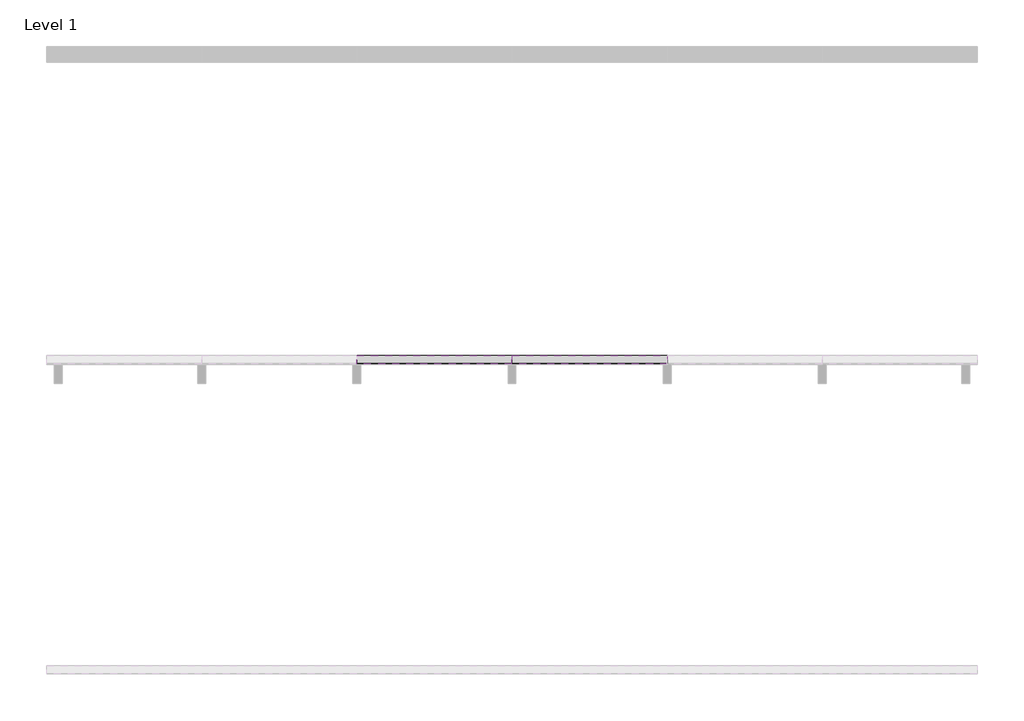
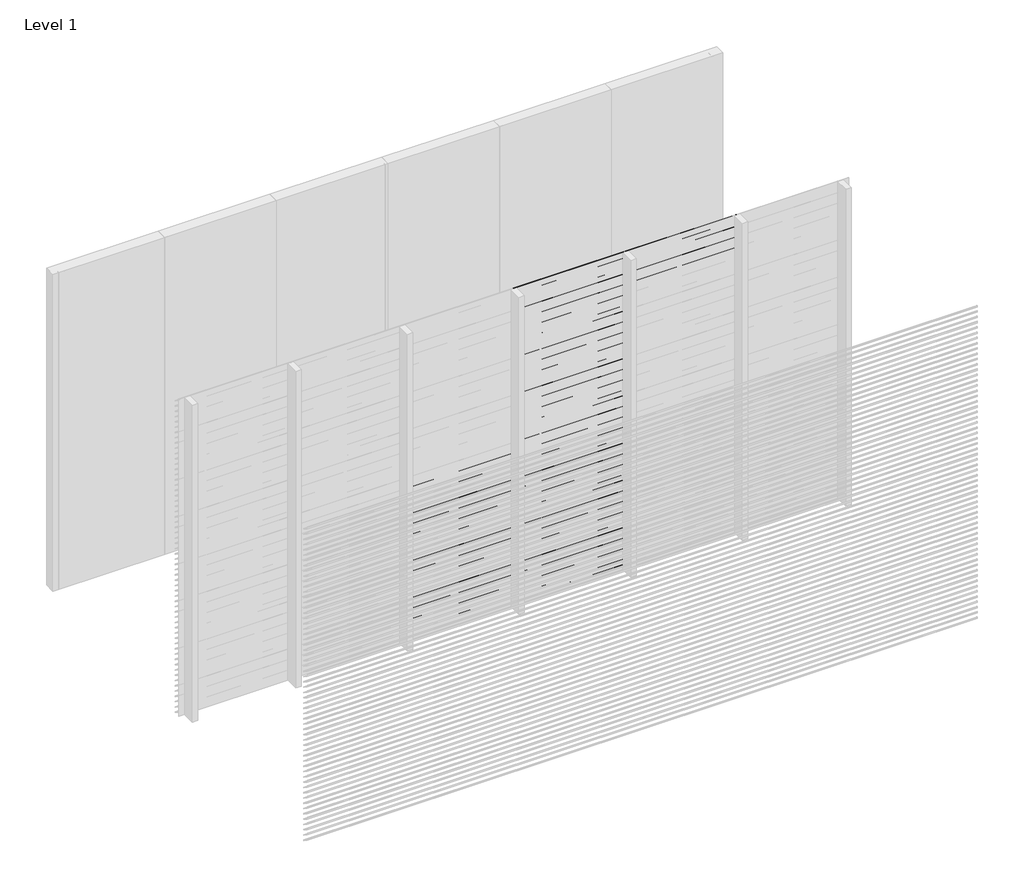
# One storey, part 4 of 18: 96 proxies.
"""IFC4 building model written with IfcOpenShell, lengths in millimetres."""

from ifc_helpers import new_model, si_unit, frame, origin, place, context, project, spatial, polyline, outline, extrude, element, save

model = new_model("IFC4")

# Units and contexts
model_context = context("Model", 3, world=origin())
ifc_project = project(units=[si_unit("LENGTHUNIT", "METRE", prefix="MILLI")], contexts=[model_context])

# Site, building, storey
site = spatial("IfcSite", under=ifc_project)
building = spatial("IfcBuilding", under=site)
storey = spatial("IfcBuildingStorey", under=building, Name="Level 1", Elevation=0.0)

# Proxies
placement = place(None, origin())
element("IfcBuildingElementProxy", 1, Name="Wall Sweeps", at=placement, inside=storey, context=model_context, shape_type="SweptSolid", body=[
    extrude(outline(polyline([(-17995.0, 3000.0), (-17995.0, 2991.0744429), (-17943.0, 2956.0), (-17943.0, 2950.0), (-17997.0, 2986.4234599), (-17997.0, 3000.0), (-17995.0, 3000.0)])), frame((3999.9999999, 0.0, 0.0), z_axis=(1.0, 0.0, 0.0), x_axis=(0.0, 1.0, 0.0)), (0.0, 0.0, 1.0), 999.9999999),
])
element("IfcBuildingElementProxy", 2, Name="Wall Sweeps", at=placement, inside=storey, context=model_context, shape_type="SweptSolid", body=[
    extrude(outline(polyline([(-17995.0, 2950.0), (-17995.0, 2941.0744429), (-17943.0, 2906.0), (-17943.0, 2900.0), (-17997.0, 2936.4234599), (-17997.0, 2950.0), (-17995.0, 2950.0)])), frame((3999.9999999, 0.0, 0.0), z_axis=(1.0, 0.0, 0.0), x_axis=(0.0, 1.0, 0.0)), (0.0, 0.0, 1.0), 999.9999999),
])
element("IfcBuildingElementProxy", 3, Name="Wall Sweeps", at=placement, inside=storey, context=model_context, shape_type="SweptSolid", body=[
    extrude(outline(polyline([(-17995.0, 2900.0), (-17995.0, 2891.0744429), (-17943.0, 2856.0), (-17943.0, 2850.0), (-17997.0, 2886.4234599), (-17997.0, 2900.0), (-17995.0, 2900.0)])), frame((3999.9999999, 0.0, 0.0), z_axis=(1.0, 0.0, 0.0), x_axis=(0.0, 1.0, 0.0)), (0.0, 0.0, 1.0), 999.9999999),
])
element("IfcBuildingElementProxy", 4, Name="Wall Sweeps", at=placement, inside=storey, context=model_context, shape_type="SweptSolid", body=[
    extrude(outline(polyline([(-17995.0, 2850.0), (-17995.0, 2841.0744429), (-17943.0, 2806.0), (-17943.0, 2800.0), (-17997.0, 2836.4234599), (-17997.0, 2850.0), (-17995.0, 2850.0)])), frame((3999.9999999, 0.0, 0.0), z_axis=(1.0, 0.0, 0.0), x_axis=(0.0, 1.0, 0.0)), (0.0, 0.0, 1.0), 999.9999999),
])
element("IfcBuildingElementProxy", 5, Name="Wall Sweeps", at=placement, inside=storey, context=model_context, shape_type="SweptSolid", body=[
    extrude(outline(polyline([(-17995.0, 2800.0), (-17995.0, 2791.0744429), (-17943.0, 2756.0), (-17943.0, 2750.0), (-17997.0, 2786.4234599), (-17997.0, 2800.0), (-17995.0, 2800.0)])), frame((3999.9999999, 0.0, 0.0), z_axis=(1.0, 0.0, 0.0), x_axis=(0.0, 1.0, 0.0)), (0.0, 0.0, 1.0), 999.9999999),
])
element("IfcBuildingElementProxy", 6, Name="Wall Sweeps", at=placement, inside=storey, context=model_context, shape_type="SweptSolid", body=[
    extrude(outline(polyline([(-17995.0, 2750.0), (-17995.0, 2741.0744429), (-17943.0, 2706.0), (-17943.0, 2700.0), (-17997.0, 2736.4234599), (-17997.0, 2750.0), (-17995.0, 2750.0)])), frame((3999.9999999, 0.0, 0.0), z_axis=(1.0, 0.0, 0.0), x_axis=(0.0, 1.0, 0.0)), (0.0, 0.0, 1.0), 999.9999999),
])
element("IfcBuildingElementProxy", 7, Name="Wall Sweeps", at=placement, inside=storey, context=model_context, shape_type="SweptSolid", body=[
    extrude(outline(polyline([(-17995.0, 2700.0), (-17995.0, 2691.0744429), (-17943.0, 2656.0), (-17943.0, 2650.0), (-17997.0, 2686.4234599), (-17997.0, 2700.0), (-17995.0, 2700.0)])), frame((3999.9999999, 0.0, 0.0), z_axis=(1.0, 0.0, 0.0), x_axis=(0.0, 1.0, 0.0)), (0.0, 0.0, 1.0), 999.9999999),
])
element("IfcBuildingElementProxy", 8, Name="Wall Sweeps", at=placement, inside=storey, context=model_context, shape_type="SweptSolid", body=[
    extrude(outline(polyline([(-17995.0, 3000.0), (-17995.0, 2991.0744429), (-17943.0, 2956.0), (-17943.0, 2950.0), (-17997.0, 2986.4234599), (-17997.0, 3000.0), (-17995.0, 3000.0)])), frame((3000.0, 0.0, 0.0), z_axis=(1.0, 0.0, 0.0), x_axis=(0.0, 1.0, 0.0)), (0.0, 0.0, 1.0), 999.9999999),
])
element("IfcBuildingElementProxy", 9, Name="Wall Sweeps", at=placement, inside=storey, context=model_context, shape_type="SweptSolid", body=[
    extrude(outline(polyline([(-17995.0, 2950.0), (-17995.0, 2941.0744429), (-17943.0, 2906.0), (-17943.0, 2900.0), (-17997.0, 2936.4234599), (-17997.0, 2950.0), (-17995.0, 2950.0)])), frame((3000.0, 0.0, 0.0), z_axis=(1.0, 0.0, 0.0), x_axis=(0.0, 1.0, 0.0)), (0.0, 0.0, 1.0), 999.9999999),
])
element("IfcBuildingElementProxy", 10, Name="Wall Sweeps", at=placement, inside=storey, context=model_context, shape_type="SweptSolid", body=[
    extrude(outline(polyline([(-17995.0, 2900.0), (-17995.0, 2891.0744429), (-17943.0, 2856.0), (-17943.0, 2850.0), (-17997.0, 2886.4234599), (-17997.0, 2900.0), (-17995.0, 2900.0)])), frame((3000.0, 0.0, 0.0), z_axis=(1.0, 0.0, 0.0), x_axis=(0.0, 1.0, 0.0)), (0.0, 0.0, 1.0), 999.9999999),
])
element("IfcBuildingElementProxy", 11, Name="Wall Sweeps", at=placement, inside=storey, context=model_context, shape_type="SweptSolid", body=[
    extrude(outline(polyline([(-17995.0, 2850.0), (-17995.0, 2841.0744429), (-17943.0, 2806.0), (-17943.0, 2800.0), (-17997.0, 2836.4234599), (-17997.0, 2850.0), (-17995.0, 2850.0)])), frame((3000.0, 0.0, 0.0), z_axis=(1.0, 0.0, 0.0), x_axis=(0.0, 1.0, 0.0)), (0.0, 0.0, 1.0), 999.9999999),
])
element("IfcBuildingElementProxy", 12, Name="Wall Sweeps", at=placement, inside=storey, context=model_context, shape_type="SweptSolid", body=[
    extrude(outline(polyline([(-17995.0, 2800.0), (-17995.0, 2791.0744429), (-17943.0, 2756.0), (-17943.0, 2750.0), (-17997.0, 2786.4234599), (-17997.0, 2800.0), (-17995.0, 2800.0)])), frame((3000.0, 0.0, 0.0), z_axis=(1.0, 0.0, 0.0), x_axis=(0.0, 1.0, 0.0)), (0.0, 0.0, 1.0), 999.9999999),
])
element("IfcBuildingElementProxy", 13, Name="Wall Sweeps", at=placement, inside=storey, context=model_context, shape_type="SweptSolid", body=[
    extrude(outline(polyline([(-17995.0, 2750.0), (-17995.0, 2741.0744429), (-17943.0, 2706.0), (-17943.0, 2700.0), (-17997.0, 2736.4234599), (-17997.0, 2750.0), (-17995.0, 2750.0)])), frame((3000.0, 0.0, 0.0), z_axis=(1.0, 0.0, 0.0), x_axis=(0.0, 1.0, 0.0)), (0.0, 0.0, 1.0), 999.9999999),
])
element("IfcBuildingElementProxy", 14, Name="Wall Sweeps", at=placement, inside=storey, context=model_context, shape_type="SweptSolid", body=[
    extrude(outline(polyline([(-17995.0, 2700.0), (-17995.0, 2691.0744429), (-17943.0, 2656.0), (-17943.0, 2650.0), (-17997.0, 2686.4234599), (-17997.0, 2700.0), (-17995.0, 2700.0)])), frame((3000.0, 0.0, 0.0), z_axis=(1.0, 0.0, 0.0), x_axis=(0.0, 1.0, 0.0)), (0.0, 0.0, 1.0), 999.9999999),
])
element("IfcBuildingElementProxy", 15, Name="Wall Sweeps", at=placement, inside=storey, context=model_context, shape_type="SweptSolid", body=[
    extrude(outline(polyline([(-17995.0, 2650.0), (-17995.0, 2641.0744429), (-17943.0, 2606.0), (-17943.0, 2600.0), (-17997.0, 2636.4234599), (-17997.0, 2650.0), (-17995.0, 2650.0)])), frame((3000.0, 0.0, 0.0), z_axis=(1.0, 0.0, 0.0), x_axis=(0.0, 1.0, 0.0)), (0.0, 0.0, 1.0), 999.9999999),
])
element("IfcBuildingElementProxy", 16, Name="Wall Sweeps", at=placement, inside=storey, context=model_context, shape_type="SweptSolid", body=[
    extrude(outline(polyline([(-17995.0, 2600.0), (-17995.0, 2591.0744429), (-17943.0, 2556.0), (-17943.0, 2550.0), (-17997.0, 2586.4234599), (-17997.0, 2600.0), (-17995.0, 2600.0)])), frame((3000.0, 0.0, 0.0), z_axis=(1.0, 0.0, 0.0), x_axis=(0.0, 1.0, 0.0)), (0.0, 0.0, 1.0), 999.9999999),
])
element("IfcBuildingElementProxy", 17, Name="Wall Sweeps", at=placement, inside=storey, context=model_context, shape_type="SweptSolid", body=[
    extrude(outline(polyline([(-17995.0, 2550.0), (-17995.0, 2541.0744429), (-17943.0, 2506.0), (-17943.0, 2500.0), (-17997.0, 2536.4234599), (-17997.0, 2550.0), (-17995.0, 2550.0)])), frame((3000.0, 0.0, 0.0), z_axis=(1.0, 0.0, 0.0), x_axis=(0.0, 1.0, 0.0)), (0.0, 0.0, 1.0), 999.9999999),
])
element("IfcBuildingElementProxy", 18, Name="Wall Sweeps", at=placement, inside=storey, context=model_context, shape_type="SweptSolid", body=[
    extrude(outline(polyline([(-17995.0, 2500.0), (-17995.0, 2491.0744429), (-17943.0, 2456.0), (-17943.0, 2450.0), (-17997.0, 2486.4234599), (-17997.0, 2500.0), (-17995.0, 2500.0)])), frame((3000.0, 0.0, 0.0), z_axis=(1.0, 0.0, 0.0), x_axis=(0.0, 1.0, 0.0)), (0.0, 0.0, 1.0), 999.9999999),
])
element("IfcBuildingElementProxy", 19, Name="Wall Sweeps", at=placement, inside=storey, context=model_context, shape_type="SweptSolid", body=[
    extrude(outline(polyline([(-17995.0, 2450.0), (-17995.0, 2441.0744429), (-17943.0, 2406.0), (-17943.0, 2400.0), (-17997.0, 2436.4234599), (-17997.0, 2450.0), (-17995.0, 2450.0)])), frame((3000.0, 0.0, 0.0), z_axis=(1.0, 0.0, 0.0), x_axis=(0.0, 1.0, 0.0)), (0.0, 0.0, 1.0), 999.9999999),
])
element("IfcBuildingElementProxy", 20, Name="Wall Sweeps", at=placement, inside=storey, context=model_context, shape_type="SweptSolid", body=[
    extrude(outline(polyline([(-17995.0, 2400.0), (-17995.0, 2391.0744429), (-17943.0, 2356.0), (-17943.0, 2350.0), (-17997.0, 2386.4234599), (-17997.0, 2400.0), (-17995.0, 2400.0)])), frame((3000.0, 0.0, 0.0), z_axis=(1.0, 0.0, 0.0), x_axis=(0.0, 1.0, 0.0)), (0.0, 0.0, 1.0), 999.9999999),
])
element("IfcBuildingElementProxy", 21, Name="Wall Sweeps", at=placement, inside=storey, context=model_context, shape_type="SweptSolid", body=[
    extrude(outline(polyline([(-17995.0, 2350.0), (-17995.0, 2341.0744429), (-17943.0, 2306.0), (-17943.0, 2300.0), (-17997.0, 2336.4234599), (-17997.0, 2350.0), (-17995.0, 2350.0)])), frame((3000.0, 0.0, 0.0), z_axis=(1.0, 0.0, 0.0), x_axis=(0.0, 1.0, 0.0)), (0.0, 0.0, 1.0), 999.9999999),
])
element("IfcBuildingElementProxy", 22, Name="Wall Sweeps", at=placement, inside=storey, context=model_context, shape_type="SweptSolid", body=[
    extrude(outline(polyline([(-17995.0, 2300.0), (-17995.0, 2291.0744429), (-17943.0, 2256.0), (-17943.0, 2250.0), (-17997.0, 2286.4234599), (-17997.0, 2300.0), (-17995.0, 2300.0)])), frame((3000.0, 0.0, 0.0), z_axis=(1.0, 0.0, 0.0), x_axis=(0.0, 1.0, 0.0)), (0.0, 0.0, 1.0), 999.9999999),
])
element("IfcBuildingElementProxy", 23, Name="Wall Sweeps", at=placement, inside=storey, context=model_context, shape_type="SweptSolid", body=[
    extrude(outline(polyline([(-17995.0, 2250.0), (-17995.0, 2241.0744429), (-17943.0, 2206.0), (-17943.0, 2200.0), (-17997.0, 2236.4234599), (-17997.0, 2250.0), (-17995.0, 2250.0)])), frame((3000.0, 0.0, 0.0), z_axis=(1.0, 0.0, 0.0), x_axis=(0.0, 1.0, 0.0)), (0.0, 0.0, 1.0), 999.9999999),
])
element("IfcBuildingElementProxy", 24, Name="Wall Sweeps", at=placement, inside=storey, context=model_context, shape_type="SweptSolid", body=[
    extrude(outline(polyline([(-17995.0, 2200.0), (-17995.0, 2191.0744429), (-17943.0, 2156.0), (-17943.0, 2150.0), (-17997.0, 2186.4234599), (-17997.0, 2200.0), (-17995.0, 2200.0)])), frame((3000.0, 0.0, 0.0), z_axis=(1.0, 0.0, 0.0), x_axis=(0.0, 1.0, 0.0)), (0.0, 0.0, 1.0), 999.9999999),
])
element("IfcBuildingElementProxy", 25, Name="Wall Sweeps", at=placement, inside=storey, context=model_context, shape_type="SweptSolid", body=[
    extrude(outline(polyline([(-17995.0, 2150.0), (-17995.0, 2141.0744429), (-17943.0, 2106.0), (-17943.0, 2100.0), (-17997.0, 2136.4234599), (-17997.0, 2150.0), (-17995.0, 2150.0)])), frame((3000.0, 0.0, 0.0), z_axis=(1.0, 0.0, 0.0), x_axis=(0.0, 1.0, 0.0)), (0.0, 0.0, 1.0), 999.9999999),
])
element("IfcBuildingElementProxy", 26, Name="Wall Sweeps", at=placement, inside=storey, context=model_context, shape_type="SweptSolid", body=[
    extrude(outline(polyline([(-17995.0, 2100.0), (-17995.0, 2091.0744429), (-17943.0, 2056.0), (-17943.0, 2050.0), (-17997.0, 2086.4234599), (-17997.0, 2100.0), (-17995.0, 2100.0)])), frame((3000.0, 0.0, 0.0), z_axis=(1.0, 0.0, 0.0), x_axis=(0.0, 1.0, 0.0)), (0.0, 0.0, 1.0), 999.9999999),
])
element("IfcBuildingElementProxy", 27, Name="Wall Sweeps", at=placement, inside=storey, context=model_context, shape_type="SweptSolid", body=[
    extrude(outline(polyline([(-17995.0, 2050.0), (-17995.0, 2041.0744429), (-17943.0, 2006.0), (-17943.0, 2000.0), (-17997.0, 2036.4234599), (-17997.0, 2050.0), (-17995.0, 2050.0)])), frame((3000.0, 0.0, 0.0), z_axis=(1.0, 0.0, 0.0), x_axis=(0.0, 1.0, 0.0)), (0.0, 0.0, 1.0), 999.9999999),
])
element("IfcBuildingElementProxy", 28, Name="Wall Sweeps", at=placement, inside=storey, context=model_context, shape_type="SweptSolid", body=[
    extrude(outline(polyline([(-17995.0, 2000.0), (-17995.0, 1991.0744429), (-17943.0, 1956.0), (-17943.0, 1950.0), (-17997.0, 1986.4234599), (-17997.0, 2000.0), (-17995.0, 2000.0)])), frame((3000.0, 0.0, 0.0), z_axis=(1.0, 0.0, 0.0), x_axis=(0.0, 1.0, 0.0)), (0.0, 0.0, 1.0), 999.9999999),
])
element("IfcBuildingElementProxy", 29, Name="Wall Sweeps", at=placement, inside=storey, context=model_context, shape_type="SweptSolid", body=[
    extrude(outline(polyline([(-17995.0, 1950.0), (-17995.0, 1941.0744429), (-17943.0, 1906.0), (-17943.0, 1900.0), (-17997.0, 1936.4234599), (-17997.0, 1950.0), (-17995.0, 1950.0)])), frame((3000.0, 0.0, 0.0), z_axis=(1.0, 0.0, 0.0), x_axis=(0.0, 1.0, 0.0)), (0.0, 0.0, 1.0), 999.9999999),
])
element("IfcBuildingElementProxy", 30, Name="Wall Sweeps", at=placement, inside=storey, context=model_context, shape_type="SweptSolid", body=[
    extrude(outline(polyline([(-17995.0, 1900.0), (-17995.0, 1891.0744429), (-17943.0, 1856.0), (-17943.0, 1850.0), (-17997.0, 1886.4234599), (-17997.0, 1900.0), (-17995.0, 1900.0)])), frame((3000.0, 0.0, 0.0), z_axis=(1.0, 0.0, 0.0), x_axis=(0.0, 1.0, 0.0)), (0.0, 0.0, 1.0), 999.9999999),
])
element("IfcBuildingElementProxy", 31, Name="Wall Sweeps", at=placement, inside=storey, context=model_context, shape_type="SweptSolid", body=[
    extrude(outline(polyline([(-17995.0, 1850.0), (-17995.0, 1841.0744429), (-17943.0, 1806.0), (-17943.0, 1800.0), (-17997.0, 1836.4234599), (-17997.0, 1850.0), (-17995.0, 1850.0)])), frame((3000.0, 0.0, 0.0), z_axis=(1.0, 0.0, 0.0), x_axis=(0.0, 1.0, 0.0)), (0.0, 0.0, 1.0), 999.9999999),
])
element("IfcBuildingElementProxy", 32, Name="Wall Sweeps", at=placement, inside=storey, context=model_context, shape_type="SweptSolid", body=[
    extrude(outline(polyline([(-17995.0, 1800.0), (-17995.0, 1791.0744429), (-17943.0, 1756.0), (-17943.0, 1750.0), (-17997.0, 1786.4234599), (-17997.0, 1800.0), (-17995.0, 1800.0)])), frame((3000.0, 0.0, 0.0), z_axis=(1.0, 0.0, 0.0), x_axis=(0.0, 1.0, 0.0)), (0.0, 0.0, 1.0), 999.9999999),
])
element("IfcBuildingElementProxy", 33, Name="Wall Sweeps", at=placement, inside=storey, context=model_context, shape_type="SweptSolid", body=[
    extrude(outline(polyline([(-17995.0, 1750.0), (-17995.0, 1741.0744429), (-17943.0, 1706.0), (-17943.0, 1700.0), (-17997.0, 1736.4234599), (-17997.0, 1750.0), (-17995.0, 1750.0)])), frame((3000.0, 0.0, 0.0), z_axis=(1.0, 0.0, 0.0), x_axis=(0.0, 1.0, 0.0)), (0.0, 0.0, 1.0), 999.9999999),
])
element("IfcBuildingElementProxy", 34, Name="Wall Sweeps", at=placement, inside=storey, context=model_context, shape_type="SweptSolid", body=[
    extrude(outline(polyline([(-17995.0, 1700.0), (-17995.0, 1691.0744429), (-17943.0, 1656.0), (-17943.0, 1650.0), (-17997.0, 1686.4234599), (-17997.0, 1700.0), (-17995.0, 1700.0)])), frame((3000.0, 0.0, 0.0), z_axis=(1.0, 0.0, 0.0), x_axis=(0.0, 1.0, 0.0)), (0.0, 0.0, 1.0), 999.9999999),
])
element("IfcBuildingElementProxy", 35, Name="Wall Sweeps", at=placement, inside=storey, context=model_context, shape_type="SweptSolid", body=[
    extrude(outline(polyline([(-17995.0, 1650.0), (-17995.0, 1641.0744429), (-17943.0, 1606.0), (-17943.0, 1600.0), (-17997.0, 1636.4234599), (-17997.0, 1650.0), (-17995.0, 1650.0)])), frame((3000.0, 0.0, 0.0), z_axis=(1.0, 0.0, 0.0), x_axis=(0.0, 1.0, 0.0)), (0.0, 0.0, 1.0), 999.9999999),
])
element("IfcBuildingElementProxy", 36, Name="Wall Sweeps", at=placement, inside=storey, context=model_context, shape_type="SweptSolid", body=[
    extrude(outline(polyline([(-17995.0, 1600.0), (-17995.0, 1591.0744429), (-17943.0, 1556.0), (-17943.0, 1550.0), (-17997.0, 1586.4234599), (-17997.0, 1600.0), (-17995.0, 1600.0)])), frame((3000.0, 0.0, 0.0), z_axis=(1.0, 0.0, 0.0), x_axis=(0.0, 1.0, 0.0)), (0.0, 0.0, 1.0), 999.9999999),
])
element("IfcBuildingElementProxy", 37, Name="Wall Sweeps", at=placement, inside=storey, context=model_context, shape_type="SweptSolid", body=[
    extrude(outline(polyline([(-17995.0, 1550.0), (-17995.0, 1541.0744429), (-17943.0, 1506.0), (-17943.0, 1500.0), (-17997.0, 1536.4234599), (-17997.0, 1550.0), (-17995.0, 1550.0)])), frame((3000.0, 0.0, 0.0), z_axis=(1.0, 0.0, 0.0), x_axis=(0.0, 1.0, 0.0)), (0.0, 0.0, 1.0), 999.9999999),
])
element("IfcBuildingElementProxy", 38, Name="Wall Sweeps", at=placement, inside=storey, context=model_context, shape_type="SweptSolid", body=[
    extrude(outline(polyline([(-17995.0, 1500.0), (-17995.0, 1491.0744429), (-17943.0, 1456.0), (-17943.0, 1450.0), (-17997.0, 1486.4234599), (-17997.0, 1500.0), (-17995.0, 1500.0)])), frame((3000.0, 0.0, 0.0), z_axis=(1.0, 0.0, 0.0), x_axis=(0.0, 1.0, 0.0)), (0.0, 0.0, 1.0), 999.9999999),
])
element("IfcBuildingElementProxy", 39, Name="Wall Sweeps", at=placement, inside=storey, context=model_context, shape_type="SweptSolid", body=[
    extrude(outline(polyline([(-17995.0, 1450.0), (-17995.0, 1441.0744429), (-17943.0, 1406.0), (-17943.0, 1400.0), (-17997.0, 1436.4234599), (-17997.0, 1450.0), (-17995.0, 1450.0)])), frame((3000.0, 0.0, 0.0), z_axis=(1.0, 0.0, 0.0), x_axis=(0.0, 1.0, 0.0)), (0.0, 0.0, 1.0), 999.9999999),
])
element("IfcBuildingElementProxy", 40, Name="Wall Sweeps", at=placement, inside=storey, context=model_context, shape_type="SweptSolid", body=[
    extrude(outline(polyline([(-17995.0, 1400.0), (-17995.0, 1391.0744429), (-17943.0, 1356.0), (-17943.0, 1350.0), (-17997.0, 1386.4234599), (-17997.0, 1400.0), (-17995.0, 1400.0)])), frame((3000.0, 0.0, 0.0), z_axis=(1.0, 0.0, 0.0), x_axis=(0.0, 1.0, 0.0)), (0.0, 0.0, 1.0), 999.9999999),
])
element("IfcBuildingElementProxy", 41, Name="Wall Sweeps", at=placement, inside=storey, context=model_context, shape_type="SweptSolid", body=[
    extrude(outline(polyline([(-17995.0, 1350.0), (-17995.0, 1341.0744429), (-17943.0, 1306.0), (-17943.0, 1300.0), (-17997.0, 1336.4234599), (-17997.0, 1350.0), (-17995.0, 1350.0)])), frame((3000.0, 0.0, 0.0), z_axis=(1.0, 0.0, 0.0), x_axis=(0.0, 1.0, 0.0)), (0.0, 0.0, 1.0), 999.9999999),
])
element("IfcBuildingElementProxy", 42, Name="Wall Sweeps", at=placement, inside=storey, context=model_context, shape_type="SweptSolid", body=[
    extrude(outline(polyline([(-17995.0, 1300.0), (-17995.0, 1291.0744429), (-17943.0, 1256.0), (-17943.0, 1250.0), (-17997.0, 1286.4234599), (-17997.0, 1300.0), (-17995.0, 1300.0)])), frame((3000.0, 0.0, 0.0), z_axis=(1.0, 0.0, 0.0), x_axis=(0.0, 1.0, 0.0)), (0.0, 0.0, 1.0), 999.9999999),
])
element("IfcBuildingElementProxy", 43, Name="Wall Sweeps", at=placement, inside=storey, context=model_context, shape_type="SweptSolid", body=[
    extrude(outline(polyline([(-17995.0, 1250.0), (-17995.0, 1241.0744429), (-17943.0, 1206.0), (-17943.0, 1200.0), (-17997.0, 1236.4234599), (-17997.0, 1250.0), (-17995.0, 1250.0)])), frame((3000.0, 0.0, 0.0), z_axis=(1.0, 0.0, 0.0), x_axis=(0.0, 1.0, 0.0)), (0.0, 0.0, 1.0), 999.9999999),
])
element("IfcBuildingElementProxy", 44, Name="Wall Sweeps", at=placement, inside=storey, context=model_context, shape_type="SweptSolid", body=[
    extrude(outline(polyline([(-17995.0, 1200.0), (-17995.0, 1191.0744429), (-17943.0, 1156.0), (-17943.0, 1150.0), (-17997.0, 1186.4234599), (-17997.0, 1200.0), (-17995.0, 1200.0)])), frame((3000.0, 0.0, 0.0), z_axis=(1.0, 0.0, 0.0), x_axis=(0.0, 1.0, 0.0)), (0.0, 0.0, 1.0), 999.9999999),
])
element("IfcBuildingElementProxy", 45, Name="Wall Sweeps", at=placement, inside=storey, context=model_context, shape_type="SweptSolid", body=[
    extrude(outline(polyline([(-17995.0, 1150.0), (-17995.0, 1141.0744429), (-17943.0, 1106.0), (-17943.0, 1100.0), (-17997.0, 1136.4234599), (-17997.0, 1150.0), (-17995.0, 1150.0)])), frame((3000.0, 0.0, 0.0), z_axis=(1.0, 0.0, 0.0), x_axis=(0.0, 1.0, 0.0)), (0.0, 0.0, 1.0), 999.9999999),
])
element("IfcBuildingElementProxy", 46, Name="Wall Sweeps", at=placement, inside=storey, context=model_context, shape_type="SweptSolid", body=[
    extrude(outline(polyline([(-17995.0, 1100.0), (-17995.0, 1091.0744429), (-17943.0, 1056.0), (-17943.0, 1050.0), (-17997.0, 1086.4234599), (-17997.0, 1100.0), (-17995.0, 1100.0)])), frame((3000.0, 0.0, 0.0), z_axis=(1.0, 0.0, 0.0), x_axis=(0.0, 1.0, 0.0)), (0.0, 0.0, 1.0), 999.9999999),
])
element("IfcBuildingElementProxy", 47, Name="Wall Sweeps", at=placement, inside=storey, context=model_context, shape_type="SweptSolid", body=[
    extrude(outline(polyline([(-17995.0, 1050.0), (-17995.0, 1041.0744429), (-17943.0, 1006.0), (-17943.0, 1000.0), (-17997.0, 1036.4234599), (-17997.0, 1050.0), (-17995.0, 1050.0)])), frame((3000.0, 0.0, 0.0), z_axis=(1.0, 0.0, 0.0), x_axis=(0.0, 1.0, 0.0)), (0.0, 0.0, 1.0), 999.9999999),
])
element("IfcBuildingElementProxy", 48, Name="Wall Sweeps", at=placement, inside=storey, context=model_context, shape_type="SweptSolid", body=[
    extrude(outline(polyline([(-17995.0, 1000.0), (-17995.0, 991.0744429), (-17943.0, 956.0), (-17943.0, 950.0), (-17997.0, 986.4234599), (-17997.0, 1000.0), (-17995.0, 1000.0)])), frame((3000.0, 0.0, 0.0), z_axis=(1.0, 0.0, 0.0), x_axis=(0.0, 1.0, 0.0)), (0.0, 0.0, 1.0), 999.9999999),
])
element("IfcBuildingElementProxy", 49, Name="Wall Sweeps", at=placement, inside=storey, context=model_context, shape_type="SweptSolid", body=[
    extrude(outline(polyline([(-17995.0, 950.0), (-17995.0, 941.0744429), (-17943.0, 906.0), (-17943.0, 900.0), (-17997.0, 936.4234599), (-17997.0, 950.0), (-17995.0, 950.0)])), frame((3000.0, 0.0, 0.0), z_axis=(1.0, 0.0, 0.0), x_axis=(0.0, 1.0, 0.0)), (0.0, 0.0, 1.0), 999.9999999),
])
element("IfcBuildingElementProxy", 50, Name="Wall Sweeps", at=placement, inside=storey, context=model_context, shape_type="SweptSolid", body=[
    extrude(outline(polyline([(-17995.0, 900.0), (-17995.0, 891.0744429), (-17943.0, 856.0), (-17943.0, 850.0), (-17997.0, 886.4234599), (-17997.0, 900.0), (-17995.0, 900.0)])), frame((3000.0, 0.0, 0.0), z_axis=(1.0, 0.0, 0.0), x_axis=(0.0, 1.0, 0.0)), (0.0, 0.0, 1.0), 999.9999999),
])
element("IfcBuildingElementProxy", 51, Name="Wall Sweeps", at=placement, inside=storey, context=model_context, shape_type="SweptSolid", body=[
    extrude(outline(polyline([(-17995.0, 850.0), (-17995.0, 841.0744429), (-17943.0, 806.0), (-17943.0, 800.0), (-17997.0, 836.4234599), (-17997.0, 850.0), (-17995.0, 850.0)])), frame((3000.0, 0.0, 0.0), z_axis=(1.0, 0.0, 0.0), x_axis=(0.0, 1.0, 0.0)), (0.0, 0.0, 1.0), 999.9999999),
])
element("IfcBuildingElementProxy", 52, Name="Wall Sweeps", at=placement, inside=storey, context=model_context, shape_type="SweptSolid", body=[
    extrude(outline(polyline([(-17995.0, 800.0), (-17995.0, 791.0744429), (-17943.0, 756.0), (-17943.0, 750.0), (-17997.0, 786.4234599), (-17997.0, 800.0), (-17995.0, 800.0)])), frame((3000.0, 0.0, 0.0), z_axis=(1.0, 0.0, 0.0), x_axis=(0.0, 1.0, 0.0)), (0.0, 0.0, 1.0), 999.9999999),
])
element("IfcBuildingElementProxy", 53, Name="Wall Sweeps", at=placement, inside=storey, context=model_context, shape_type="SweptSolid", body=[
    extrude(outline(polyline([(-17995.0, 750.0), (-17995.0, 741.0744429), (-17943.0, 706.0), (-17943.0, 700.0), (-17997.0, 736.4234599), (-17997.0, 750.0), (-17995.0, 750.0)])), frame((3000.0, 0.0, 0.0), z_axis=(1.0, 0.0, 0.0), x_axis=(0.0, 1.0, 0.0)), (0.0, 0.0, 1.0), 999.9999999),
])
element("IfcBuildingElementProxy", 54, Name="Wall Sweeps", at=placement, inside=storey, context=model_context, shape_type="SweptSolid", body=[
    extrude(outline(polyline([(-17995.0, 700.0), (-17995.0, 691.0744429), (-17943.0, 656.0), (-17943.0, 650.0), (-17997.0, 686.4234599), (-17997.0, 700.0), (-17995.0, 700.0)])), frame((3000.0, 0.0, 0.0), z_axis=(1.0, 0.0, 0.0), x_axis=(0.0, 1.0, 0.0)), (0.0, 0.0, 1.0), 999.9999999),
])
element("IfcBuildingElementProxy", 55, Name="Wall Sweeps", at=placement, inside=storey, context=model_context, shape_type="SweptSolid", body=[
    extrude(outline(polyline([(-17995.0, 650.0), (-17995.0, 641.0744429), (-17943.0, 606.0), (-17943.0, 600.0), (-17997.0, 636.4234599), (-17997.0, 650.0), (-17995.0, 650.0)])), frame((3000.0, 0.0, 0.0), z_axis=(1.0, 0.0, 0.0), x_axis=(0.0, 1.0, 0.0)), (0.0, 0.0, 1.0), 999.9999999),
])
element("IfcBuildingElementProxy", 56, Name="Wall Sweeps", at=placement, inside=storey, context=model_context, shape_type="SweptSolid", body=[
    extrude(outline(polyline([(-17995.0, 600.0), (-17995.0, 591.0744429), (-17943.0, 556.0), (-17943.0, 550.0), (-17997.0, 586.4234599), (-17997.0, 600.0), (-17995.0, 600.0)])), frame((3000.0, 0.0, 0.0), z_axis=(1.0, 0.0, 0.0), x_axis=(0.0, 1.0, 0.0)), (0.0, 0.0, 1.0), 999.9999999),
])
element("IfcBuildingElementProxy", 57, Name="Wall Sweeps", at=placement, inside=storey, context=model_context, shape_type="SweptSolid", body=[
    extrude(outline(polyline([(-17995.0, 550.0), (-17995.0, 541.0744429), (-17943.0, 506.0), (-17943.0, 500.0), (-17997.0, 536.4234599), (-17997.0, 550.0), (-17995.0, 550.0)])), frame((3000.0, 0.0, 0.0), z_axis=(1.0, 0.0, 0.0), x_axis=(0.0, 1.0, 0.0)), (0.0, 0.0, 1.0), 999.9999999),
])
element("IfcBuildingElementProxy", 58, Name="Wall Sweeps", at=placement, inside=storey, context=model_context, shape_type="SweptSolid", body=[
    extrude(outline(polyline([(-17995.0, 500.0), (-17995.0, 491.0744429), (-17943.0, 456.0), (-17943.0, 450.0), (-17997.0, 486.4234599), (-17997.0, 500.0), (-17995.0, 500.0)])), frame((3000.0, 0.0, 0.0), z_axis=(1.0, 0.0, 0.0), x_axis=(0.0, 1.0, 0.0)), (0.0, 0.0, 1.0), 999.9999999),
])
element("IfcBuildingElementProxy", 59, Name="Wall Sweeps", at=placement, inside=storey, context=model_context, shape_type="SweptSolid", body=[
    extrude(outline(polyline([(-17995.0, 450.0), (-17995.0, 441.0744429), (-17943.0, 406.0), (-17943.0, 400.0), (-17997.0, 436.4234599), (-17997.0, 450.0), (-17995.0, 450.0)])), frame((3000.0, 0.0, 0.0), z_axis=(1.0, 0.0, 0.0), x_axis=(0.0, 1.0, 0.0)), (0.0, 0.0, 1.0), 999.9999999),
])
element("IfcBuildingElementProxy", 60, Name="Wall Sweeps", at=placement, inside=storey, context=model_context, shape_type="SweptSolid", body=[
    extrude(outline(polyline([(-17995.0, 400.0), (-17995.0, 391.0744429), (-17943.0, 356.0), (-17943.0, 350.0), (-17997.0, 386.4234599), (-17997.0, 400.0), (-17995.0, 400.0)])), frame((3000.0, 0.0, 0.0), z_axis=(1.0, 0.0, 0.0), x_axis=(0.0, 1.0, 0.0)), (0.0, 0.0, 1.0), 999.9999999),
])
element("IfcBuildingElementProxy", 61, Name="Wall Sweeps", at=placement, inside=storey, context=model_context, shape_type="SweptSolid", body=[
    extrude(outline(polyline([(-17995.0, 350.0), (-17995.0, 341.0744429), (-17943.0, 306.0), (-17943.0, 300.0), (-17997.0, 336.4234599), (-17997.0, 350.0), (-17995.0, 350.0)])), frame((3000.0, 0.0, 0.0), z_axis=(1.0, 0.0, 0.0), x_axis=(0.0, 1.0, 0.0)), (0.0, 0.0, 1.0), 999.9999999),
])
element("IfcBuildingElementProxy", 62, Name="Wall Sweeps", at=placement, inside=storey, context=model_context, shape_type="SweptSolid", body=[
    extrude(outline(polyline([(-17995.0, 300.0), (-17995.0, 291.0744429), (-17943.0, 256.0), (-17943.0, 250.0), (-17997.0, 286.4234599), (-17997.0, 300.0), (-17995.0, 300.0)])), frame((3000.0, 0.0, 0.0), z_axis=(1.0, 0.0, 0.0), x_axis=(0.0, 1.0, 0.0)), (0.0, 0.0, 1.0), 999.9999999),
])
element("IfcBuildingElementProxy", 63, Name="Wall Sweeps", at=placement, inside=storey, context=model_context, shape_type="SweptSolid", body=[
    extrude(outline(polyline([(-17995.0, 250.0), (-17995.0, 241.0744429), (-17943.0, 206.0), (-17943.0, 200.0), (-17997.0, 236.4234599), (-17997.0, 250.0), (-17995.0, 250.0)])), frame((3000.0, 0.0, 0.0), z_axis=(1.0, 0.0, 0.0), x_axis=(0.0, 1.0, 0.0)), (0.0, 0.0, 1.0), 999.9999999),
])
element("IfcBuildingElementProxy", 64, Name="Wall Sweeps", at=placement, inside=storey, context=model_context, shape_type="SweptSolid", body=[
    extrude(outline(polyline([(-17995.0, 200.0), (-17995.0, 191.0744429), (-17943.0, 156.0), (-17943.0, 150.0), (-17997.0, 186.4234599), (-17997.0, 200.0), (-17995.0, 200.0)])), frame((3000.0, 0.0, 0.0), z_axis=(1.0, 0.0, 0.0), x_axis=(0.0, 1.0, 0.0)), (0.0, 0.0, 1.0), 999.9999999),
])
element("IfcBuildingElementProxy", 65, Name="Wall Sweeps", at=placement, inside=storey, context=model_context, shape_type="SweptSolid", body=[
    extrude(outline(polyline([(-17995.0, 150.0), (-17995.0, 141.0744429), (-17943.0, 106.0), (-17943.0, 100.0), (-17997.0, 136.4234599), (-17997.0, 150.0), (-17995.0, 150.0)])), frame((3000.0, 0.0, 0.0), z_axis=(1.0, 0.0, 0.0), x_axis=(0.0, 1.0, 0.0)), (0.0, 0.0, 1.0), 999.9999999),
])
element("IfcBuildingElementProxy", 66, Name="Wall Sweeps", at=placement, inside=storey, context=model_context, shape_type="SweptSolid", body=[
    extrude(outline(polyline([(-17995.0, 100.0), (-17995.0, 91.0744429), (-17943.0, 56.0), (-17943.0, 50.0), (-17997.0, 86.4234599), (-17997.0, 100.0), (-17995.0, 100.0)])), frame((3000.0, 0.0, 0.0), z_axis=(1.0, 0.0, 0.0), x_axis=(0.0, 1.0, 0.0)), (0.0, 0.0, 1.0), 999.9999999),
])
element("IfcBuildingElementProxy", 67, Name="Wall Sweeps", at=placement, inside=storey, context=model_context, shape_type="SweptSolid", body=[
    extrude(outline(polyline([(-17995.0, 50.0), (-17995.0, 41.0744429), (-17943.0, 6.0), (-17943.0, 0.0), (-17997.0, 36.4234599), (-17997.0, 50.0), (-17995.0, 50.0)])), frame((3000.0, 0.0, 0.0), z_axis=(1.0, 0.0, 0.0), x_axis=(0.0, 1.0, 0.0)), (0.0, 0.0, 1.0), 999.9999999),
])
element("IfcBuildingElementProxy", 68, Name="Wall Sweeps", at=placement, inside=storey, context=model_context, shape_type="SweptSolid", body=[
    extrude(outline(polyline([(-17995.0, 1450.0), (-17995.0, 1441.0744429), (-17943.0, 1406.0), (-17943.0, 1400.0), (-17997.0, 1436.4234599), (-17997.0, 1450.0), (-17995.0, 1450.0)])), frame((2000.0000001, 0.0, 0.0), z_axis=(1.0, 0.0, 0.0), x_axis=(0.0, 1.0, 0.0)), (0.0, 0.0, 1.0), 999.9999999),
])
element("IfcBuildingElementProxy", 69, Name="Wall Sweeps", at=placement, inside=storey, context=model_context, shape_type="SweptSolid", body=[
    extrude(outline(polyline([(-17995.0, 1400.0), (-17995.0, 1391.0744429), (-17943.0, 1356.0), (-17943.0, 1350.0), (-17997.0, 1386.4234599), (-17997.0, 1400.0), (-17995.0, 1400.0)])), frame((2000.0000001, 0.0, 0.0), z_axis=(1.0, 0.0, 0.0), x_axis=(0.0, 1.0, 0.0)), (0.0, 0.0, 1.0), 999.9999999),
])
element("IfcBuildingElementProxy", 70, Name="Wall Sweeps", at=placement, inside=storey, context=model_context, shape_type="SweptSolid", body=[
    extrude(outline(polyline([(-17995.0, 1350.0), (-17995.0, 1341.0744429), (-17943.0, 1306.0), (-17943.0, 1300.0), (-17997.0, 1336.4234599), (-17997.0, 1350.0), (-17995.0, 1350.0)])), frame((2000.0000001, 0.0, 0.0), z_axis=(1.0, 0.0, 0.0), x_axis=(0.0, 1.0, 0.0)), (0.0, 0.0, 1.0), 999.9999999),
])
element("IfcBuildingElementProxy", 71, Name="Wall Sweeps", at=placement, inside=storey, context=model_context, shape_type="SweptSolid", body=[
    extrude(outline(polyline([(-17995.0, 1300.0), (-17995.0, 1291.0744429), (-17943.0, 1256.0), (-17943.0, 1250.0), (-17997.0, 1286.4234599), (-17997.0, 1300.0), (-17995.0, 1300.0)])), frame((2000.0000001, 0.0, 0.0), z_axis=(1.0, 0.0, 0.0), x_axis=(0.0, 1.0, 0.0)), (0.0, 0.0, 1.0), 999.9999999),
])
element("IfcBuildingElementProxy", 72, Name="Wall Sweeps", at=placement, inside=storey, context=model_context, shape_type="SweptSolid", body=[
    extrude(outline(polyline([(-17995.0, 1250.0), (-17995.0, 1241.0744429), (-17943.0, 1206.0), (-17943.0, 1200.0), (-17997.0, 1236.4234599), (-17997.0, 1250.0), (-17995.0, 1250.0)])), frame((2000.0000001, 0.0, 0.0), z_axis=(1.0, 0.0, 0.0), x_axis=(0.0, 1.0, 0.0)), (0.0, 0.0, 1.0), 999.9999999),
])
element("IfcBuildingElementProxy", 73, Name="Wall Sweeps", at=placement, inside=storey, context=model_context, shape_type="SweptSolid", body=[
    extrude(outline(polyline([(-17995.0, 1200.0), (-17995.0, 1191.0744429), (-17943.0, 1156.0), (-17943.0, 1150.0), (-17997.0, 1186.4234599), (-17997.0, 1200.0), (-17995.0, 1200.0)])), frame((2000.0000001, 0.0, 0.0), z_axis=(1.0, 0.0, 0.0), x_axis=(0.0, 1.0, 0.0)), (0.0, 0.0, 1.0), 999.9999999),
])
element("IfcBuildingElementProxy", 74, Name="Wall Sweeps", at=placement, inside=storey, context=model_context, shape_type="SweptSolid", body=[
    extrude(outline(polyline([(-17995.0, 1150.0), (-17995.0, 1141.0744429), (-17943.0, 1106.0), (-17943.0, 1100.0), (-17997.0, 1136.4234599), (-17997.0, 1150.0), (-17995.0, 1150.0)])), frame((2000.0000001, 0.0, 0.0), z_axis=(1.0, 0.0, 0.0), x_axis=(0.0, 1.0, 0.0)), (0.0, 0.0, 1.0), 999.9999999),
])
element("IfcBuildingElementProxy", 75, Name="Wall Sweeps", at=placement, inside=storey, context=model_context, shape_type="SweptSolid", body=[
    extrude(outline(polyline([(-17995.0, 1100.0), (-17995.0, 1091.0744429), (-17943.0, 1056.0), (-17943.0, 1050.0), (-17997.0, 1086.4234599), (-17997.0, 1100.0), (-17995.0, 1100.0)])), frame((2000.0000001, 0.0, 0.0), z_axis=(1.0, 0.0, 0.0), x_axis=(0.0, 1.0, 0.0)), (0.0, 0.0, 1.0), 999.9999999),
])
element("IfcBuildingElementProxy", 76, Name="Wall Sweeps", at=placement, inside=storey, context=model_context, shape_type="SweptSolid", body=[
    extrude(outline(polyline([(-17995.0, 1050.0), (-17995.0, 1041.0744429), (-17943.0, 1006.0), (-17943.0, 1000.0), (-17997.0, 1036.4234599), (-17997.0, 1050.0), (-17995.0, 1050.0)])), frame((2000.0000001, 0.0, 0.0), z_axis=(1.0, 0.0, 0.0), x_axis=(0.0, 1.0, 0.0)), (0.0, 0.0, 1.0), 999.9999999),
])
element("IfcBuildingElementProxy", 77, Name="Wall Sweeps", at=placement, inside=storey, context=model_context, shape_type="SweptSolid", body=[
    extrude(outline(polyline([(-17995.0, 1000.0), (-17995.0, 991.0744429), (-17943.0, 956.0), (-17943.0, 950.0), (-17997.0, 986.4234599), (-17997.0, 1000.0), (-17995.0, 1000.0)])), frame((2000.0000001, 0.0, 0.0), z_axis=(1.0, 0.0, 0.0), x_axis=(0.0, 1.0, 0.0)), (0.0, 0.0, 1.0), 999.9999999),
])
element("IfcBuildingElementProxy", 78, Name="Wall Sweeps", at=placement, inside=storey, context=model_context, shape_type="SweptSolid", body=[
    extrude(outline(polyline([(-17995.0, 950.0), (-17995.0, 941.0744429), (-17943.0, 906.0), (-17943.0, 900.0), (-17997.0, 936.4234599), (-17997.0, 950.0), (-17995.0, 950.0)])), frame((2000.0000001, 0.0, 0.0), z_axis=(1.0, 0.0, 0.0), x_axis=(0.0, 1.0, 0.0)), (0.0, 0.0, 1.0), 999.9999999),
])
element("IfcBuildingElementProxy", 79, Name="Wall Sweeps", at=placement, inside=storey, context=model_context, shape_type="SweptSolid", body=[
    extrude(outline(polyline([(-17995.0, 900.0), (-17995.0, 891.0744429), (-17943.0, 856.0), (-17943.0, 850.0), (-17997.0, 886.4234599), (-17997.0, 900.0), (-17995.0, 900.0)])), frame((2000.0000001, 0.0, 0.0), z_axis=(1.0, 0.0, 0.0), x_axis=(0.0, 1.0, 0.0)), (0.0, 0.0, 1.0), 999.9999999),
])
element("IfcBuildingElementProxy", 80, Name="Wall Sweeps", at=placement, inside=storey, context=model_context, shape_type="SweptSolid", body=[
    extrude(outline(polyline([(-17995.0, 850.0), (-17995.0, 841.0744429), (-17943.0, 806.0), (-17943.0, 800.0), (-17997.0, 836.4234599), (-17997.0, 850.0), (-17995.0, 850.0)])), frame((2000.0000001, 0.0, 0.0), z_axis=(1.0, 0.0, 0.0), x_axis=(0.0, 1.0, 0.0)), (0.0, 0.0, 1.0), 999.9999999),
])
element("IfcBuildingElementProxy", 81, Name="Wall Sweeps", at=placement, inside=storey, context=model_context, shape_type="SweptSolid", body=[
    extrude(outline(polyline([(-17995.0, 800.0), (-17995.0, 791.0744429), (-17943.0, 756.0), (-17943.0, 750.0), (-17997.0, 786.4234599), (-17997.0, 800.0), (-17995.0, 800.0)])), frame((2000.0000001, 0.0, 0.0), z_axis=(1.0, 0.0, 0.0), x_axis=(0.0, 1.0, 0.0)), (0.0, 0.0, 1.0), 999.9999999),
])
element("IfcBuildingElementProxy", 82, Name="Wall Sweeps", at=placement, inside=storey, context=model_context, shape_type="SweptSolid", body=[
    extrude(outline(polyline([(-17995.0, 750.0), (-17995.0, 741.0744429), (-17943.0, 706.0), (-17943.0, 700.0), (-17997.0, 736.4234599), (-17997.0, 750.0), (-17995.0, 750.0)])), frame((2000.0000001, 0.0, 0.0), z_axis=(1.0, 0.0, 0.0), x_axis=(0.0, 1.0, 0.0)), (0.0, 0.0, 1.0), 999.9999999),
])
element("IfcBuildingElementProxy", 83, Name="Wall Sweeps", at=placement, inside=storey, context=model_context, shape_type="SweptSolid", body=[
    extrude(outline(polyline([(-17995.0, 700.0), (-17995.0, 691.0744429), (-17943.0, 656.0), (-17943.0, 650.0), (-17997.0, 686.4234599), (-17997.0, 700.0), (-17995.0, 700.0)])), frame((2000.0000001, 0.0, 0.0), z_axis=(1.0, 0.0, 0.0), x_axis=(0.0, 1.0, 0.0)), (0.0, 0.0, 1.0), 999.9999999),
])
element("IfcBuildingElementProxy", 84, Name="Wall Sweeps", at=placement, inside=storey, context=model_context, shape_type="SweptSolid", body=[
    extrude(outline(polyline([(-17995.0, 650.0), (-17995.0, 641.0744429), (-17943.0, 606.0), (-17943.0, 600.0), (-17997.0, 636.4234599), (-17997.0, 650.0), (-17995.0, 650.0)])), frame((2000.0000001, 0.0, 0.0), z_axis=(1.0, 0.0, 0.0), x_axis=(0.0, 1.0, 0.0)), (0.0, 0.0, 1.0), 999.9999999),
])
element("IfcBuildingElementProxy", 85, Name="Wall Sweeps", at=placement, inside=storey, context=model_context, shape_type="SweptSolid", body=[
    extrude(outline(polyline([(-17995.0, 600.0), (-17995.0, 591.0744429), (-17943.0, 556.0), (-17943.0, 550.0), (-17997.0, 586.4234599), (-17997.0, 600.0), (-17995.0, 600.0)])), frame((2000.0000001, 0.0, 0.0), z_axis=(1.0, 0.0, 0.0), x_axis=(0.0, 1.0, 0.0)), (0.0, 0.0, 1.0), 999.9999999),
])
element("IfcBuildingElementProxy", 86, Name="Wall Sweeps", at=placement, inside=storey, context=model_context, shape_type="SweptSolid", body=[
    extrude(outline(polyline([(-17995.0, 550.0), (-17995.0, 541.0744429), (-17943.0, 506.0), (-17943.0, 500.0), (-17997.0, 536.4234599), (-17997.0, 550.0), (-17995.0, 550.0)])), frame((2000.0000001, 0.0, 0.0), z_axis=(1.0, 0.0, 0.0), x_axis=(0.0, 1.0, 0.0)), (0.0, 0.0, 1.0), 999.9999999),
])
element("IfcBuildingElementProxy", 87, Name="Wall Sweeps", at=placement, inside=storey, context=model_context, shape_type="SweptSolid", body=[
    extrude(outline(polyline([(-17995.0, 500.0), (-17995.0, 491.0744429), (-17943.0, 456.0), (-17943.0, 450.0), (-17997.0, 486.4234599), (-17997.0, 500.0), (-17995.0, 500.0)])), frame((2000.0000001, 0.0, 0.0), z_axis=(1.0, 0.0, 0.0), x_axis=(0.0, 1.0, 0.0)), (0.0, 0.0, 1.0), 999.9999999),
])
element("IfcBuildingElementProxy", 88, Name="Wall Sweeps", at=placement, inside=storey, context=model_context, shape_type="SweptSolid", body=[
    extrude(outline(polyline([(-17995.0, 450.0), (-17995.0, 441.0744429), (-17943.0, 406.0), (-17943.0, 400.0), (-17997.0, 436.4234599), (-17997.0, 450.0), (-17995.0, 450.0)])), frame((2000.0000001, 0.0, 0.0), z_axis=(1.0, 0.0, 0.0), x_axis=(0.0, 1.0, 0.0)), (0.0, 0.0, 1.0), 999.9999999),
])
element("IfcBuildingElementProxy", 89, Name="Wall Sweeps", at=placement, inside=storey, context=model_context, shape_type="SweptSolid", body=[
    extrude(outline(polyline([(-17995.0, 400.0), (-17995.0, 391.0744429), (-17943.0, 356.0), (-17943.0, 350.0), (-17997.0, 386.4234599), (-17997.0, 400.0), (-17995.0, 400.0)])), frame((2000.0000001, 0.0, 0.0), z_axis=(1.0, 0.0, 0.0), x_axis=(0.0, 1.0, 0.0)), (0.0, 0.0, 1.0), 999.9999999),
])
element("IfcBuildingElementProxy", 90, Name="Wall Sweeps", at=placement, inside=storey, context=model_context, shape_type="SweptSolid", body=[
    extrude(outline(polyline([(-17995.0, 350.0), (-17995.0, 341.0744429), (-17943.0, 306.0), (-17943.0, 300.0), (-17997.0, 336.4234599), (-17997.0, 350.0), (-17995.0, 350.0)])), frame((2000.0000001, 0.0, 0.0), z_axis=(1.0, 0.0, 0.0), x_axis=(0.0, 1.0, 0.0)), (0.0, 0.0, 1.0), 999.9999999),
])
element("IfcBuildingElementProxy", 91, Name="Wall Sweeps", at=placement, inside=storey, context=model_context, shape_type="SweptSolid", body=[
    extrude(outline(polyline([(-17995.0, 300.0), (-17995.0, 291.0744429), (-17943.0, 256.0), (-17943.0, 250.0), (-17997.0, 286.4234599), (-17997.0, 300.0), (-17995.0, 300.0)])), frame((2000.0000001, 0.0, 0.0), z_axis=(1.0, 0.0, 0.0), x_axis=(0.0, 1.0, 0.0)), (0.0, 0.0, 1.0), 999.9999999),
])
element("IfcBuildingElementProxy", 92, Name="Wall Sweeps", at=placement, inside=storey, context=model_context, shape_type="SweptSolid", body=[
    extrude(outline(polyline([(-17995.0, 250.0), (-17995.0, 241.0744429), (-17943.0, 206.0), (-17943.0, 200.0), (-17997.0, 236.4234599), (-17997.0, 250.0), (-17995.0, 250.0)])), frame((2000.0000001, 0.0, 0.0), z_axis=(1.0, 0.0, 0.0), x_axis=(0.0, 1.0, 0.0)), (0.0, 0.0, 1.0), 999.9999999),
])
element("IfcBuildingElementProxy", 93, Name="Wall Sweeps", at=placement, inside=storey, context=model_context, shape_type="SweptSolid", body=[
    extrude(outline(polyline([(-17995.0, 200.0), (-17995.0, 191.0744429), (-17943.0, 156.0), (-17943.0, 150.0), (-17997.0, 186.4234599), (-17997.0, 200.0), (-17995.0, 200.0)])), frame((2000.0000001, 0.0, 0.0), z_axis=(1.0, 0.0, 0.0), x_axis=(0.0, 1.0, 0.0)), (0.0, 0.0, 1.0), 999.9999999),
])
element("IfcBuildingElementProxy", 94, Name="Wall Sweeps", at=placement, inside=storey, context=model_context, shape_type="SweptSolid", body=[
    extrude(outline(polyline([(-17995.0, 150.0), (-17995.0, 141.0744429), (-17943.0, 106.0), (-17943.0, 100.0), (-17997.0, 136.4234599), (-17997.0, 150.0), (-17995.0, 150.0)])), frame((2000.0000001, 0.0, 0.0), z_axis=(1.0, 0.0, 0.0), x_axis=(0.0, 1.0, 0.0)), (0.0, 0.0, 1.0), 999.9999999),
])
element("IfcBuildingElementProxy", 95, Name="Wall Sweeps", at=placement, inside=storey, context=model_context, shape_type="SweptSolid", body=[
    extrude(outline(polyline([(-17995.0, 100.0), (-17995.0, 91.0744429), (-17943.0, 56.0), (-17943.0, 50.0), (-17997.0, 86.4234599), (-17997.0, 100.0), (-17995.0, 100.0)])), frame((2000.0000001, 0.0, 0.0), z_axis=(1.0, 0.0, 0.0), x_axis=(0.0, 1.0, 0.0)), (0.0, 0.0, 1.0), 999.9999999),
])
element("IfcBuildingElementProxy", 96, Name="Wall Sweeps", at=placement, inside=storey, context=model_context, shape_type="SweptSolid", body=[
    extrude(outline(polyline([(-17995.0, 50.0), (-17995.0, 41.0744429), (-17943.0, 6.0), (-17943.0, 0.0), (-17997.0, 36.4234599), (-17997.0, 50.0), (-17995.0, 50.0)])), frame((2000.0000001, 0.0, 0.0), z_axis=(1.0, 0.0, 0.0), x_axis=(0.0, 1.0, 0.0)), (0.0, 0.0, 1.0), 999.9999999),
])

save(model, "model.ifc")
